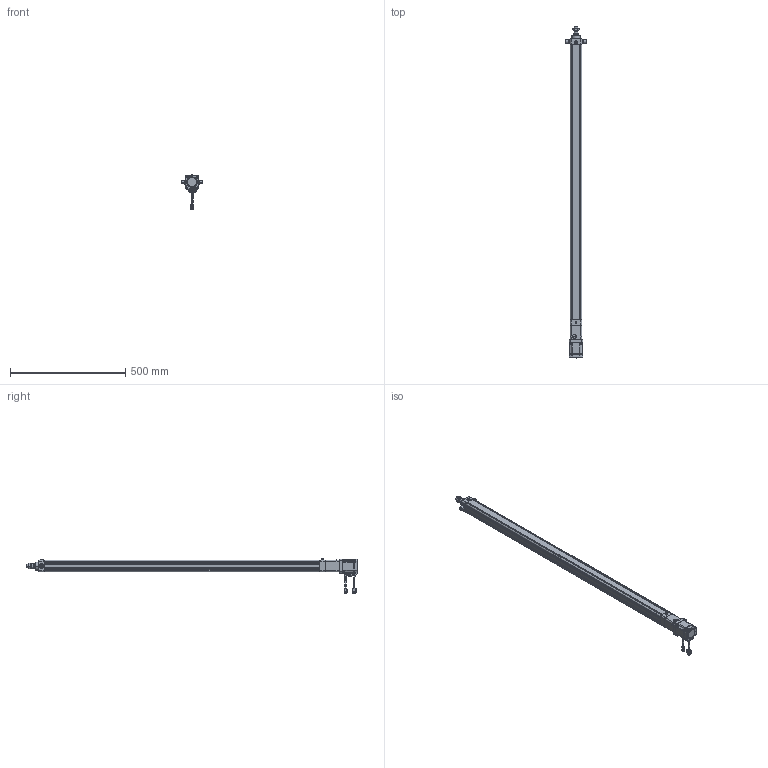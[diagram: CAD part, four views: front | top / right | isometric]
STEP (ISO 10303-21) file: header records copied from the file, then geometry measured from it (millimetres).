
FILE_DESCRIPTION((''),'2;1');
FILE_NAME('HE40-D-100_ASM','2020-05-25T',('ASUS20200'),(''),'CREO PARAMETRIC BY PTC INC, 2014190','CREO PARAMETRIC BY PTC INC, 2014190','');
FILE_SCHEMA(('CONFIG_CONTROL_DESIGN'));
Length unit declared in the file: millimetre
Products named in the file (26): HE40-D-P-001-X1; HE40-D-P-002-X1; HE40-D-P-003-X1; 6200ZZ; HE40-D-009-X1; HE40-D-010-X1; _MHMF022L1A2; _CABLE_MOTOR_BOTTOM_03; _CABLE_MOTOR_TOP_03; _MOTOR_CONNECTOR_2; _CABLE_BRAKE_BOTTOM_03; _CABLE_BRAKE_TOP_03; _MHMF_CONNECTOR_9_PIN_A6; MHMF022L1A2M2_1_ASM; MHMF022L1A2M2_ASM; SLM-01; YZ-M6X1; JDB202820; SKT-13; JX5X5X20; HE40-TC; HE40-D-P-005-X1; HE40-D-P-004-X1; HE40-D-P-008-X1; LGLM-M6-22; HE40-D-100_ASM
Assembly tree (29 placements, depth 4):
  HE40-D-100_ASM
    HE40-D-P-001-X1
    HE40-D-P-002-X1
    HE40-D-P-003-X1
    6200ZZ
    HE40-D-009-X1
    HE40-D-010-X1
    MHMF022L1A2M2_ASM
      MHMF022L1A2M2_1_ASM
        _MHMF022L1A2
        _CABLE_MOTOR_BOTTOM_03
        _CABLE_MOTOR_TOP_03
        _MOTOR_CONNECTOR_2
        _CABLE_BRAKE_BOTTOM_03
        _CABLE_BRAKE_TOP_03
        _MHMF_CONNECTOR_9_PIN_A6
    SLM-01
    YZ-M6X1
    JDB202820
    SKT-13
    JX5X5X20
    HE40-TC  x2
    HE40-D-P-005-X1
    HE40-D-P-004-X1
    HE40-D-P-008-X1
    LGLM-M6-22  x4
Bounding box: 91 x 1438.5 x 152.7 mm (x, y, z)
Volume: 1726913.8 mm3; surface area: 711681.6 mm2
Topology: 27 solids, 54 shells, 2173 faces, 5317 edges, 3315 vertices
Faces by surface type: plane 880, cylinder 681, cone 486, torus 86, sphere 36, bspline 4
Entity records: 61957 total; most frequent: CARTESIAN_POINT 11927, DIRECTION 11010, ORIENTED_EDGE 9834, EDGE_CURVE 4971, AXIS2_PLACEMENT_3D 4139, VERTEX_POINT 3133, VECTOR 2732, LINE 2732
